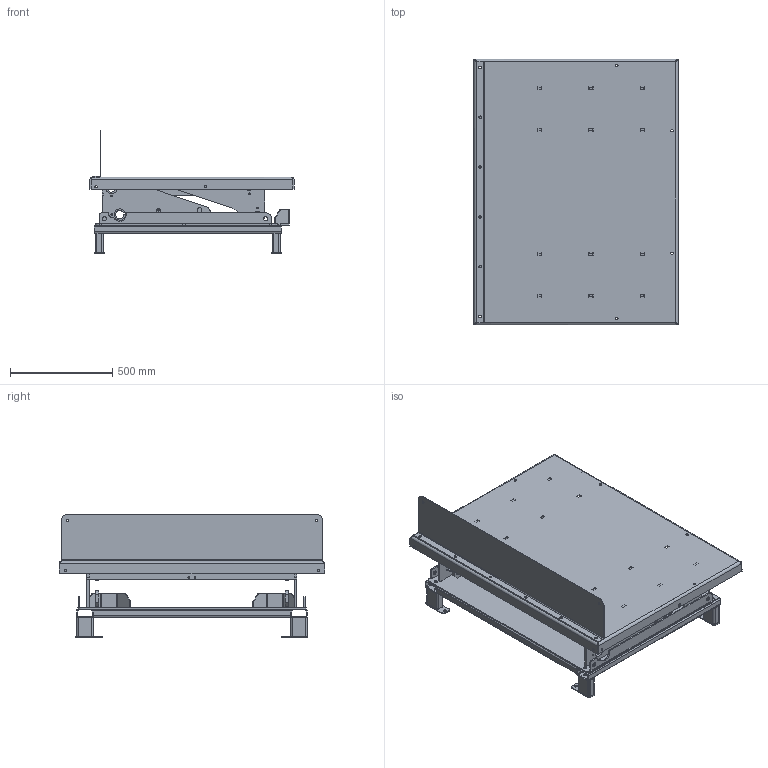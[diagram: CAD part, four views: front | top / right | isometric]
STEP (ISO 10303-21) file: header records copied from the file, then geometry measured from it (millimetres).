
FILE_DESCRIPTION(/* description */ (''),/* implementation_level */ '2;1');
FILE_NAME(/* name */ 'C:\Autodesk_VaultWork\Ritningar\Exporterade modeller\ART 1500GV - (22113)\22113_Collapsed.stp',/* time_stamp */ '2019-12-20T12:00:18+01:00',/* author */ ('johso'),/* organization */ (''),/* preprocessor_version */ 'ST-DEVELOPER v16.5',/* originating_system */ 'Autodesk Inventor 2017',/* authorisation */ '');
FILE_SCHEMA (('AUTOMOTIVE_DESIGN { 1 0 10303 214 3 1 1 }'));
Length unit declared in the file: millimetre
Products named in the file (9): Assembly21; 22023_Collapsed; 35398; 45274; 82153 - 96; 45273-1; 82153 - 968; 82153 - 917; 82153 - 917_1
Assembly tree (12 placements, depth 4):
  Assembly21
    22023_Collapsed
    35398
      45274  x4
        82153 - 96
        45273-1
      82153 - 968  x2
      82153 - 917
      82153 - 917_1
Bounding box: 1000 x 1300 x 605 mm (x, y, z)
Volume: 26499138.9 mm3; surface area: 8943912.5 mm2
Topology: 28 solids, 28 shells, 1634 faces, 4670 edges, 3096 vertices
Faces by surface type: cylinder 1004, plane 622, bspline 8
Full cylindrical faces by diameter (mm): 5.7 x2, 6.9 x4, 7.4 x16, 8.5 x2, 11 x4, 12 x12, 12.5 x12, 13 x12, 15 x4, 20 x6, 30.2 x4
Entity records: 49642 total; most frequent: DIRECTION 8968, CARTESIAN_POINT 8786, ORIENTED_EDGE 8316, EDGE_CURVE 4158, AXIS2_PLACEMENT_3D 3332, VERTEX_POINT 2798, LINE 2304, VECTOR 2304
